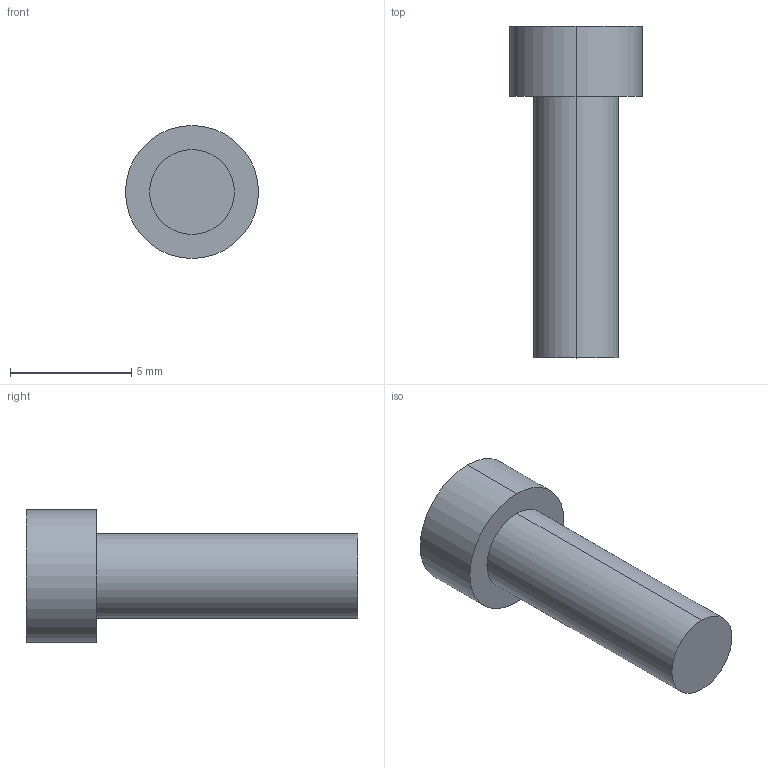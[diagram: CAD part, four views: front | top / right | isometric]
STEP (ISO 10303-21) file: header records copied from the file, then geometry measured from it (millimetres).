
FILE_DESCRIPTION (( 'STEP AP203' ), '1' );
FILE_NAME ('Copy of Vionaro V8 Innneblende Schraube Ø3,5x10,8 links.step', '2022-04-15T10:01:16', ( '' ), ( '' ), 'SwSTEP 2.0', 'SolidWorks 2021', '' );
FILE_SCHEMA (( 'CONFIG_CONTROL_DESIGN' ));
Length unit declared in the file: millimetre
Products named in the file (1): Copy of Vionaro V8 Innneblende Schraube Ø3,5x10,8 links
Bounding box: 5.49 x 13.7 x 5.49 mm (x, y, z)
Volume: 171.7 mm3; surface area: 222.2 mm2
Topology: 1 solids, 1 shells, 20 faces, 48 edges, 32 vertices
Faces by surface type: plane 16, cylinder 4
Entity records: 657 total; most frequent: CARTESIAN_POINT 101, DIRECTION 98, ORIENTED_EDGE 96, EDGE_CURVE 48, VECTOR 40, LINE 40, VERTEX_POINT 32, AXIS2_PLACEMENT_3D 29
